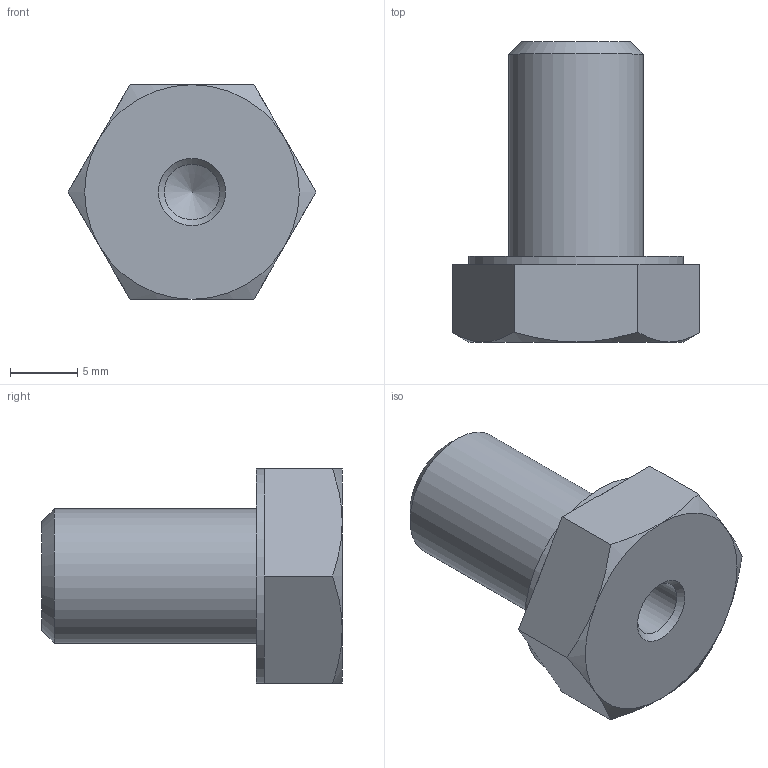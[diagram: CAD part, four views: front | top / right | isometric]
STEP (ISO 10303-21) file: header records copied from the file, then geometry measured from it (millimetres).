
FILE_DESCRIPTION(/* description */ ('STEP AP203'),/* implementation_level */ '2;1');
FILE_NAME(/* name */ 'E30539',/* time_stamp */ '2025-01-08T12:55:24+01:00',/* author */ ('License CC BY-ND 4.0'),/* organization */ ('CADENAS'),/* preprocessor_version */ 'ST-DEVELOPER v19.3',/* originating_system */ 'PARTsolutions',/* authorisation */ ' ');
FILE_SCHEMA (('CONFIG_CONTROL_DESIGN'));
Length unit declared in the file: millimetre
Products named in the file (1): E30539
Bounding box: 18.48 x 22.4 x 16 mm (x, y, z)
Volume: 2464.8 mm3; surface area: 1437.3 mm2
Topology: 1 solids, 1 shells, 27 faces, 56 edges, 32 vertices
Faces by surface type: plane 15, cone 9, cylinder 3
Full cylindrical faces by diameter (mm): 4.134 x1, 10 x1, 16 x1
Entity records: 708 total; most frequent: CARTESIAN_POINT 145, DIRECTION 112, ORIENTED_EDGE 98, EDGE_CURVE 49, AXIS2_PLACEMENT_3D 47, FACE_BOUND 35, EDGE_LOOP 34, VERTEX_POINT 32
